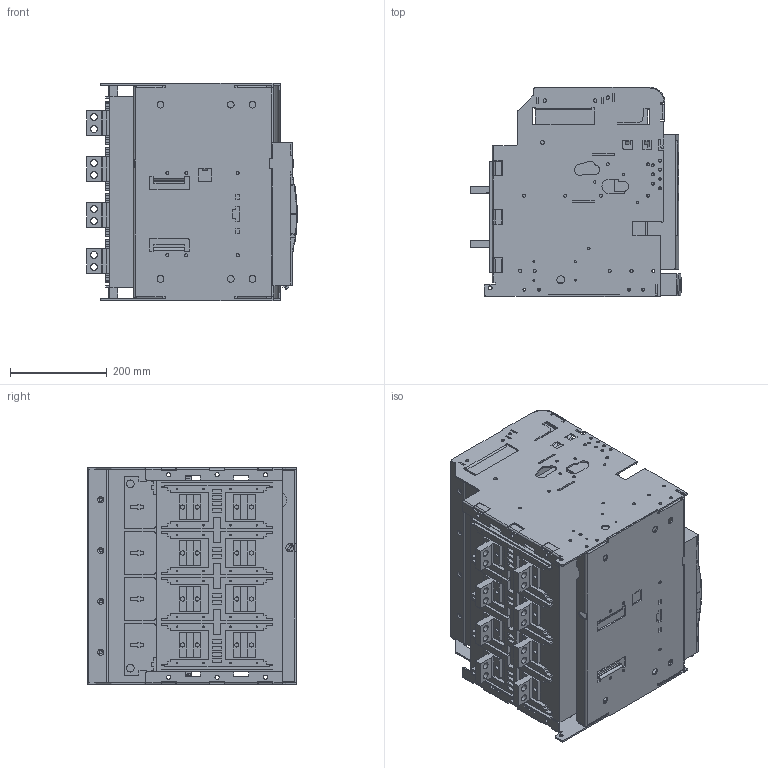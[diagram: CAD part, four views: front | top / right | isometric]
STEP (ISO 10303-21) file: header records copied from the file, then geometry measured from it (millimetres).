
FILE_DESCRIPTION (( 'STEP AP214' ), '1' );
FILE_NAME ('OptiMat A-S2-B-630-1600-4P-D-H.STEP', '2023-09-19T10:39:29', ( '' ), ( '' ), 'SwSTEP 2.0', 'SolidWorks 2018', '' );
FILE_SCHEMA (( 'AUTOMOTIVE_DESIGN' ));
Length unit declared in the file: millimetre
Products named in the file (1): OptiMat A-S2-B-630-1600-4P-D-H
Bounding box: 435.05 x 431.5 x 450 mm (x, y, z)
Volume: 54172336.4 mm3; surface area: 2200799.3 mm2
Topology: 1 solids, 21 shells, 2190 faces, 5912 edges, 3869 vertices
Faces by surface type: plane 1403, cylinder 706, cone 68, bspline 10, torus 3
Entity records: 97363 total; most frequent: CARTESIAN_POINT 17890, ORIENTED_EDGE 11820, DIRECTION 11626, EDGE_CURVE 5910, VECTOR 4324, LINE 4324, VERTEX_POINT 3869, AXIS2_PLACEMENT_3D 3651
